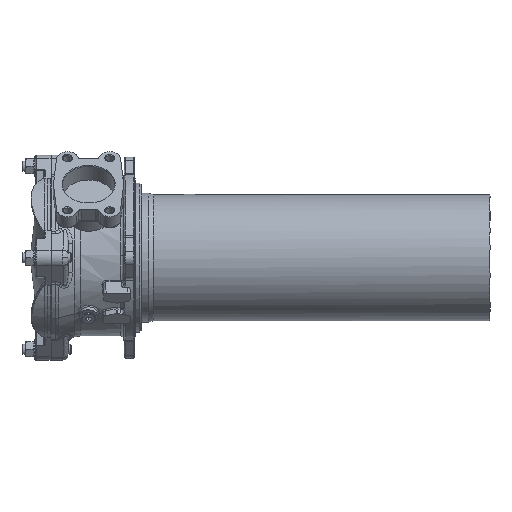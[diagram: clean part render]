
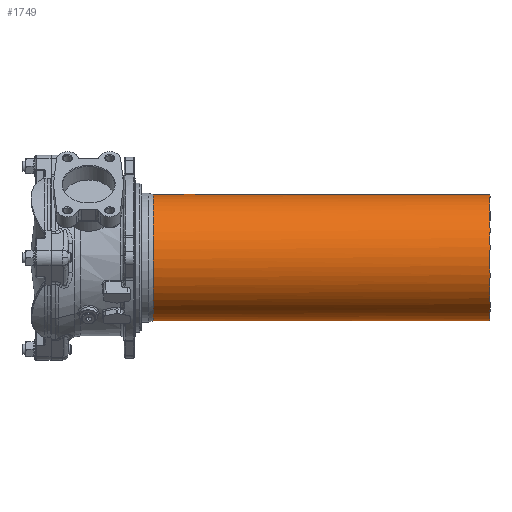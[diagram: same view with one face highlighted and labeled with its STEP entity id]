
A CAD part, front view. The second image highlights one B-rep face of the part: STEP entity #1749.
In plain terms, the highlighted free-form (B-spline) face has degree [2, 1] with [7, 2] control points.
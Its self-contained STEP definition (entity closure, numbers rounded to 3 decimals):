
#1674=CARTESIAN_POINT('V1194',(481.436,
   159.81,0.));
#1675=VERTEX_POINT('V1194',#1674);
#1676=CARTESIAN_POINT('E1943',(481.436,
   159.81,0.));
#1677=CARTESIAN_POINT('E1943',(481.436,
   159.81,131.636));
#1678=CARTESIAN_POINT('E1943',(481.436,
   45.81,65.818));
#1679=CARTESIAN_POINT('E1943',(481.436,
   -68.19,0.));
#1680=CARTESIAN_POINT('E1943',(481.436,
   45.81,-65.818));
#1681=CARTESIAN_POINT('E1943',(481.436,
   159.81,-131.636));
#1682=CARTESIAN_POINT('E1943',(481.436,
   159.81,0.));
#1690=(BOUNDED_CURVE()B_SPLINE_CURVE(2,(#1676,#1677,#1678,#1679,
   #1680,#1681,#1682),.CIRCULAR_ARC.,.T.,.U.)
   B_SPLINE_CURVE_WITH_KNOTS((3,2,2,3),(0.0,0.651,
   1.301,1.952),.UNSPECIFIED.)CURVE()
   GEOMETRIC_REPRESENTATION_ITEM()RATIONAL_B_SPLINE_CURVE((1.0,
   0.5,1.0,0.5,1.0,0.5,1.0)
   )REPRESENTATION_ITEM('E1943'));
#1691=EDGE_CURVE('E1943',#1675,#1675,#1690,.T.);
#1699=CARTESIAN_POINT('F793',(481.436,
   159.81,0.));
#1700=CARTESIAN_POINT('F793',(481.436,
   159.81,-131.636));
#1701=CARTESIAN_POINT('F793',(481.436,45.81,
   -65.818));
#1702=CARTESIAN_POINT('F793',(481.436,
   -68.19,0.));
#1703=CARTESIAN_POINT('F793',(481.436,45.81,
   65.818));
#1704=CARTESIAN_POINT('F793',(481.436,
   159.81,131.636));
#1705=CARTESIAN_POINT('F793',(481.436,
   159.81,0.));
#1706=CARTESIAN_POINT('F793',(76.832,159.81,
   0.));
#1707=CARTESIAN_POINT('F793',(76.832,159.81,
   -131.636));
#1708=CARTESIAN_POINT('F793',(76.832,45.81,
   -65.818));
#1709=CARTESIAN_POINT('F793',(76.832,-68.19,
   0.));
#1710=CARTESIAN_POINT('F793',(76.832,45.81,
   65.818));
#1711=CARTESIAN_POINT('F793',(76.832,159.81,
   131.636));
#1712=CARTESIAN_POINT('F793',(76.832,159.81,
   0.));
#1720=(BOUNDED_SURFACE()B_SPLINE_SURFACE(2,1,((#1699,#1706),(
   #1700,#1707),(#1701,#1708),(#1702,#1709),(#1703,#1710),(
   #1704,#1711),(#1705,#1712)),.CYLINDRICAL_SURF.,.T.,.F.,.U.)
   B_SPLINE_SURFACE_WITH_KNOTS((3,2,2,3),(2,2),(0.0,
   0.651,1.301,1.952),(0.0,1.0),
   .UNSPECIFIED.)GEOMETRIC_REPRESENTATION_ITEM()
   RATIONAL_B_SPLINE_SURFACE(((1.0,1.0),(0.5,
   0.5),(1.0,1.0),(0.5,
   0.5),(1.0,1.0),(0.5,
   0.5),(1.0,1.0)))REPRESENTATION_ITEM('F793')
   SURFACE());
#1721=CARTESIAN_POINT('V1193',(76.832,
   159.81,0.));
#1722=VERTEX_POINT('V1193',#1721);
#1723=CARTESIAN_POINT('E1942',(76.832,
   159.81,0.0));
#1724=CARTESIAN_POINT('E1942',(481.436,
   159.81,0.0));
#1725=QUASI_UNIFORM_CURVE('E1942',1,(#1723,#1724),.POLYLINE_FORM.,
   .F.,.U.);
#1726=EDGE_CURVE('E1942',#1722,#1675,#1725,.T.);
#1727=ORIENTED_EDGE('E1942',*,*,#1726,.T.);
#1728=ORIENTED_EDGE('F804',*,*,#1691,.F.);
#1729=ORIENTED_EDGE('E1942',*,*,#1726,.F.);
#1730=CARTESIAN_POINT('E1944',(76.832,
   159.81,0.));
#1731=CARTESIAN_POINT('E1944',(76.832,
   159.81,-131.636));
#1732=CARTESIAN_POINT('E1944',(76.832,45.81,
   -65.818));
#1733=CARTESIAN_POINT('E1944',(76.832,
   -68.19,0.));
#1734=CARTESIAN_POINT('E1944',(76.832,45.81,
   65.818));
#1735=CARTESIAN_POINT('E1944',(76.832,
   159.81,131.636));
#1736=CARTESIAN_POINT('E1944',(76.832,
   159.81,0.));
#1744=(BOUNDED_CURVE()B_SPLINE_CURVE(2,(#1730,#1731,#1732,#1733,
   #1734,#1735,#1736),.CIRCULAR_ARC.,.T.,.U.)
   B_SPLINE_CURVE_WITH_KNOTS((3,2,2,3),(0.0,45.875,
   91.75,137.624),.UNSPECIFIED.)CURVE()
   GEOMETRIC_REPRESENTATION_ITEM()RATIONAL_B_SPLINE_CURVE((1.0,
   0.5,1.0,0.5,1.0,0.5,1.0)
   )REPRESENTATION_ITEM('E1944'));
#1745=EDGE_CURVE('E1944',#1722,#1722,#1744,.T.);
#1746=ORIENTED_EDGE('E1944',*,*,#1745,.F.);
#1747=EDGE_LOOP('F793',(#1727,#1728,#1729,#1746));
#1748=FACE_OUTER_BOUND('F793',#1747,.T.);
#1749=ADVANCED_FACE('F793',(#1748),#1720,.T.);
